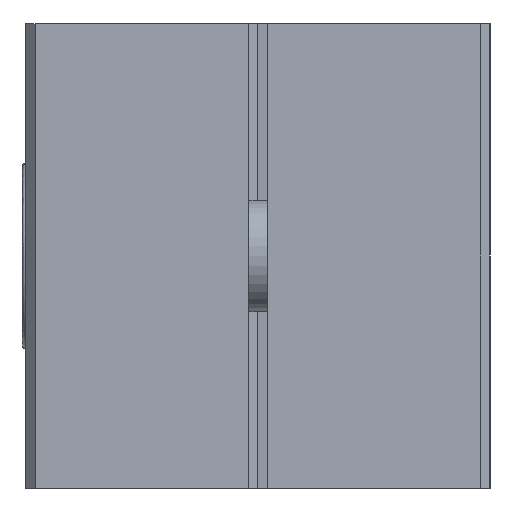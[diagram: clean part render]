
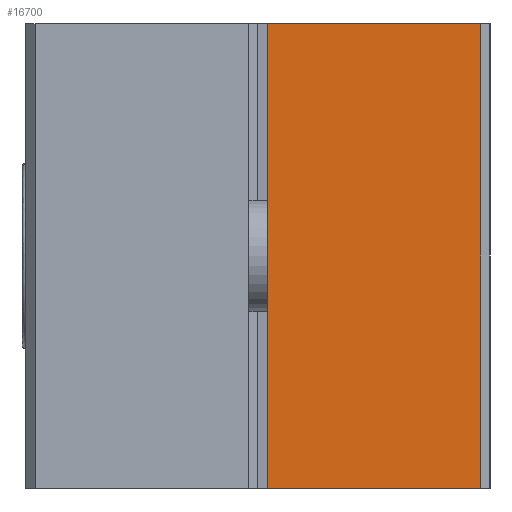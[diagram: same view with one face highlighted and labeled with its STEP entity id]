
A CAD part, left-side view. The second image highlights one B-rep face of the part: STEP entity #16700.
In plain terms, the highlighted planar face has unit normal (-1, 0, 0).
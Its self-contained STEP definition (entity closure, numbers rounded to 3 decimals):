
#315 = ORIENTED_EDGE ( 'NONE', *, *, #13932, .T. ) ;
#718 = DIRECTION ( 'NONE',  ( 0., 1., 0. ) ) ;
#1820 = CARTESIAN_POINT ( 'NONE',  ( -74.071, 12.181, 6.828 ) ) ;
#2055 = VERTEX_POINT ( 'NONE', #14626 ) ;
#2183 = ORIENTED_EDGE ( 'NONE', *, *, #13210, .T. ) ;
#2833 = DIRECTION ( 'NONE',  ( 0., 1., 0. ) ) ;
#3560 = VERTEX_POINT ( 'NONE', #5225 ) ;
#3930 = CARTESIAN_POINT ( 'NONE',  ( -74.071, 23.681, 19.328 ) ) ;
#4023 = VECTOR ( 'NONE', #15157, 1000. ) ;
#4208 = CARTESIAN_POINT ( 'NONE',  ( -74.071, 24.181, 19.328 ) ) ;
#4554 = CARTESIAN_POINT ( 'NONE',  ( -74.071, 24.181, -5.672 ) ) ;
#4601 = DIRECTION ( 'NONE',  ( 0., 0., 1. ) ) ;
#5225 = CARTESIAN_POINT ( 'NONE',  ( -74.071, 12.181, -5.672 ) ) ;
#5520 = CARTESIAN_POINT ( 'NONE',  ( -74.071, 23.681, 6.828 ) ) ;
#5575 = FACE_OUTER_BOUND ( 'NONE', #10719, .T. ) ;
#6108 = DIRECTION ( 'NONE',  ( 1., 0., 0. ) ) ;
#6397 = VECTOR ( 'NONE', #718, 1000. ) ;
#6630 = AXIS2_PLACEMENT_3D ( 'NONE', #11798, #6108, #14489 ) ;
#6666 = LINE ( 'NONE', #4208, #16311 ) ;
#7607 = VERTEX_POINT ( 'NONE', #3930 ) ;
#7707 = LINE ( 'NONE', #5520, #4023 ) ;
#7905 = LINE ( 'NONE', #4554, #6397 ) ;
#8376 = EDGE_CURVE ( 'NONE', #7607, #2055, #7707, .T. ) ;
#10719 = EDGE_LOOP ( 'NONE', ( #2183, #10901, #15275, #315 ) ) ;
#10901 = ORIENTED_EDGE ( 'NONE', *, *, #8376, .T. ) ;
#11311 = VERTEX_POINT ( 'NONE', #16267 ) ;
#11652 = EDGE_CURVE ( 'NONE', #3560, #2055, #7905, .T. ) ;
#11798 = CARTESIAN_POINT ( 'NONE',  ( -74.071, 12.181, 19.328 ) ) ;
#13210 = EDGE_CURVE ( 'NONE', #11311, #7607, #6666, .T. ) ;
#13932 = EDGE_CURVE ( 'NONE', #3560, #11311, #17001, .T. ) ;
#13990 = VECTOR ( 'NONE', #4601, 1000. ) ;
#14375 = PLANE ( 'NONE',  #6630 ) ;
#14489 = DIRECTION ( 'NONE',  ( 0., 0., -1. ) ) ;
#14626 = CARTESIAN_POINT ( 'NONE',  ( -74.071, 23.681, -5.672 ) ) ;
#15157 = DIRECTION ( 'NONE',  ( 0., 0., -1. ) ) ;
#15275 = ORIENTED_EDGE ( 'NONE', *, *, #11652, .F. ) ;
#16267 = CARTESIAN_POINT ( 'NONE',  ( -74.071, 12.181, 19.328 ) ) ;
#16311 = VECTOR ( 'NONE', #2833, 1000. ) ;
#16700 = ADVANCED_FACE ( 'NONE', ( #5575 ), #14375, .F. ) ;
#17001 = LINE ( 'NONE', #1820, #13990 ) ;
